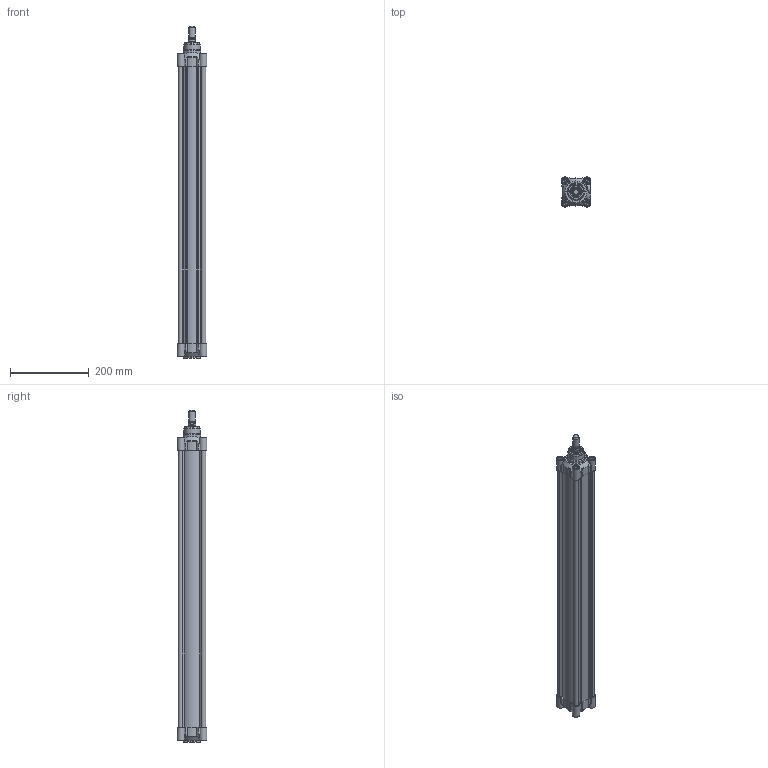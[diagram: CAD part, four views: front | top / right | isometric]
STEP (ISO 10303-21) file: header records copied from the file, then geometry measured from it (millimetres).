
FILE_DESCRIPTION(/* description */ ('CILINDRO D.E. MAGNETICO AMMORTIZZATO ISO 15552'),/* implementation_level */ '2;1');
FILE_NAME(/* name */ 'T:\Archivio Inventor\- 00 NUOVI STP PER SITO CON STELO CHE SI MUOVE\SERIE H - U\SERIE HDM\HDM063 - TUBO NUOVO\HDM063.650.GS.M.stp',/* time_stamp */ '2018-07-30T14:41:59+02:00',/* author */ ('carlo.corazza'),/* organization */ (''),/* preprocessor_version */ 'ST-DEVELOPER v16.5',/* originating_system */ 'Autodesk Inventor 2017',/* authorisation */ '');
FILE_SCHEMA (('AUTOMOTIVE_DESIGN { 1 0 10303 214 3 1 1 }'));
Length unit declared in the file: millimetre
Products named in the file (5): HDM063.650.GS.M; TP; TA; STELO-650; CORPO-650
Assembly tree (4 placements, depth 2):
  HDM063.650.GS.M
    TP
    TA
    STELO-650
    CORPO-650
Bounding box: 75 x 75 x 844 mm (x, y, z)
Volume: 1155930.8 mm3; surface area: 625339.6 mm2
Topology: 4 solids, 27 shells, 1241 faces, 2936 edges, 1818 vertices
Faces by surface type: plane 368, cylinder 297, bspline 288, torus 108, cone 106, sphere 74
Full cylindrical faces by diameter (mm): 3 x2, 3.4 x2, 4.8 x2, 5.25 x2, 6.647 x8, 8 x8, 8.3 x12, 9.8 x4, 9.9 x2, 10 x6, 12 x3, 13 x8, 13.3 x8, 13.5 x1, 14.95 x2, 16 x1, 19.5 x1, 20 x1, 20.8 x1, 20.847 x1, 24 x1, 26 x2, 30 x3, 42 x1, 45 x2, 63 x1
Entity records: 40772 total; most frequent: CARTESIAN_POINT 13075, ORIENTED_EDGE 5326, DIRECTION 5100, EDGE_CURVE 2663, AXIS2_PLACEMENT_3D 2037, VERTEX_POINT 1763, EDGE_LOOP 1576, STYLED_ITEM 1245
